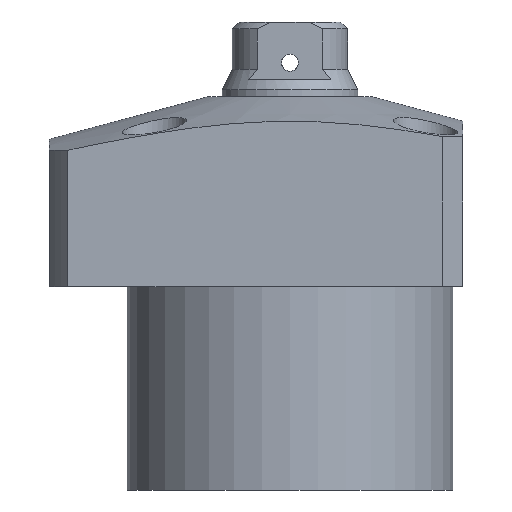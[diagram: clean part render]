
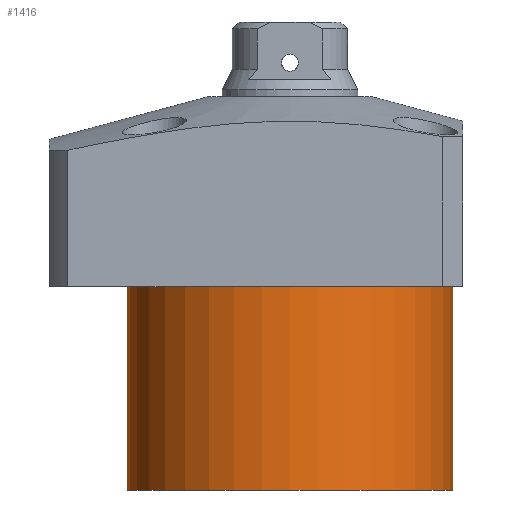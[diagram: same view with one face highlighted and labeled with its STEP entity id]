
A CAD part, front view. The second image highlights one B-rep face of the part: STEP entity #1416.
In plain terms, the highlighted cylindrical face has radius 24 mm (diameter 48 mm), a partial arc.
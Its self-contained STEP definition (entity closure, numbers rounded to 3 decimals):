
#63 = ORIENTED_EDGE ( 'NONE', *, *, #1831, .F. ) ;
#65 = CIRCLE ( 'NONE', #2046, 24. ) ;
#129 = VERTEX_POINT ( 'NONE', #164 ) ;
#164 = CARTESIAN_POINT ( 'NONE',  ( -24., 0., -44. ) ) ;
#245 = FACE_OUTER_BOUND ( 'NONE', #1138, .T. ) ;
#347 = CARTESIAN_POINT ( 'NONE',  ( 24., 0., -44. ) ) ;
#364 = VERTEX_POINT ( 'NONE', #347 ) ;
#386 = ORIENTED_EDGE ( 'NONE', *, *, #1115, .F. ) ;
#468 = CARTESIAN_POINT ( 'NONE',  ( 0., 0., -44. ) ) ;
#563 = EDGE_CURVE ( 'NONE', #2338, #1519, #2288, .T. ) ;
#566 = CARTESIAN_POINT ( 'NONE',  ( -24., 0., -44. ) ) ;
#628 = DIRECTION ( 'NONE',  ( 1., 0., 0. ) ) ;
#683 = ORIENTED_EDGE ( 'NONE', *, *, #1180, .T. ) ;
#784 = CARTESIAN_POINT ( 'NONE',  ( 24., 0., -14. ) ) ;
#890 = VECTOR ( 'NONE', #1761, 1000. ) ;
#1041 = DIRECTION ( 'NONE',  ( 1., 0., 0. ) ) ;
#1105 = DIRECTION ( 'NONE',  ( 0., 0., -1. ) ) ;
#1115 = EDGE_CURVE ( 'NONE', #129, #1519, #2327, .T. ) ;
#1116 = DIRECTION ( 'NONE',  ( -1., 0., 0. ) ) ;
#1138 = EDGE_LOOP ( 'NONE', ( #386, #63, #683, #1331 ) ) ;
#1180 = EDGE_CURVE ( 'NONE', #364, #2338, #1913, .T. ) ;
#1235 = CARTESIAN_POINT ( 'NONE',  ( 0., 0., -14. ) ) ;
#1331 = ORIENTED_EDGE ( 'NONE', *, *, #563, .T. ) ;
#1416 = ADVANCED_FACE ( 'NONE', ( #245 ), #1635, .T. ) ;
#1420 = CARTESIAN_POINT ( 'NONE',  ( 24., 0., -44. ) ) ;
#1433 = DIRECTION ( 'NONE',  ( 0., 0., -1. ) ) ;
#1519 = VERTEX_POINT ( 'NONE', #2118 ) ;
#1595 = DIRECTION ( 'NONE',  ( 0., 0., 1. ) ) ;
#1620 = AXIS2_PLACEMENT_3D ( 'NONE', #1235, #1433, #628 ) ;
#1635 = CYLINDRICAL_SURFACE ( 'NONE', #1729, 24. ) ;
#1729 = AXIS2_PLACEMENT_3D ( 'NONE', #1871, #2088, #1041 ) ;
#1761 = DIRECTION ( 'NONE',  ( 0., 0., 1. ) ) ;
#1831 = EDGE_CURVE ( 'NONE', #364, #129, #65, .T. ) ;
#1871 = CARTESIAN_POINT ( 'NONE',  ( 0., 0., -44. ) ) ;
#1913 = LINE ( 'NONE', #1420, #890 ) ;
#2046 = AXIS2_PLACEMENT_3D ( 'NONE', #468, #1105, #1116 ) ;
#2088 = DIRECTION ( 'NONE',  ( 0., 0., 1. ) ) ;
#2118 = CARTESIAN_POINT ( 'NONE',  ( -24., 0., -14. ) ) ;
#2137 = VECTOR ( 'NONE', #1595, 1000. ) ;
#2288 = CIRCLE ( 'NONE', #1620, 24. ) ;
#2327 = LINE ( 'NONE', #566, #2137 ) ;
#2338 = VERTEX_POINT ( 'NONE', #784 ) ;
